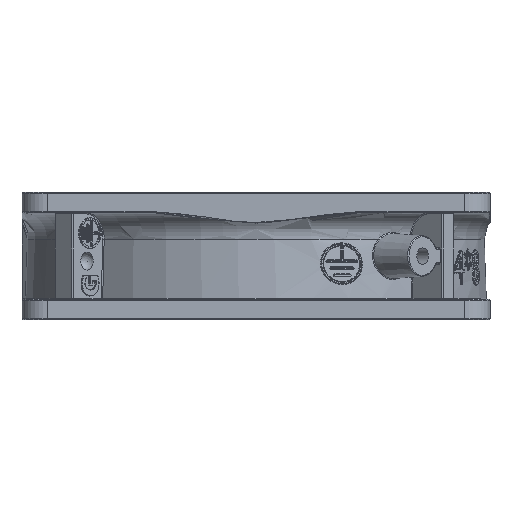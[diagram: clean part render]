
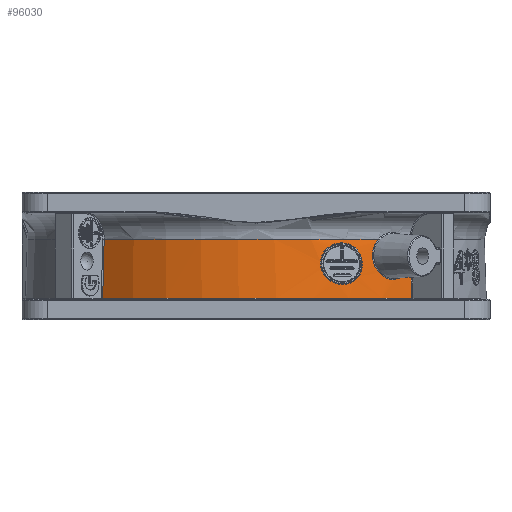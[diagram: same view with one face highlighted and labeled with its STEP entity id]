
A CAD part, left-side view. The second image highlights one B-rep face of the part: STEP entity #96030.
In plain terms, the highlighted conical face has half-angle 2.021 degrees and reference radius 45.1 mm.
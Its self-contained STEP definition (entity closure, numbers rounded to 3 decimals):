
#826=CONICAL_SURFACE('',#102832,45.1,0.035);
#938=FACE_BOUND('',#16226,.T.);
#7078=CIRCLE('',#102833,45.393);
#7079=CIRCLE('',#102834,44.983);
#10127=FACE_OUTER_BOUND('',#16225,.T.);
#16225=EDGE_LOOP('',(#68422,#68423,#68424,#68425,#68426,#68427));
#16226=EDGE_LOOP('',(#68428));
#35676=B_SPLINE_CURVE_WITH_KNOTS('',3,(#142993,#142994,#142995,#142996,
#142997,#142998,#142999,#143000,#143001,#143002,#143003,#143004,#143005,
#143006,#143007),.UNSPECIFIED.,.T.,.F.,(4,1,1,1,1,1,1,1,1,1,1,1,4),(-2.52,
-2.34,-2.16,-1.8,-1.62,
-1.44,-1.32,-1.08,-0.96,
-0.72,-0.36,-0.18,0.),
 .UNSPECIFIED.);
#35678=B_SPLINE_CURVE_WITH_KNOTS('',3,(#143019,#143020,#143021,#143022),
 .UNSPECIFIED.,.F.,.F.,(4,4),(-0.66,-0.039),
 .UNSPECIFIED.);
#35679=B_SPLINE_CURVE_WITH_KNOTS('',3,(#143024,#143025,#143026,#143027),
 .UNSPECIFIED.,.F.,.F.,(4,4),(-0.056,-0.046),
 .UNSPECIFIED.);
#35680=B_SPLINE_CURVE_WITH_KNOTS('',3,(#143029,#143030,#143031,#143032,
#143033,#143034,#143035,#143036,#143037),.UNSPECIFIED.,.F.,.F.,(4,1,1,1,
1,1,4),(-1.619,-1.388,-1.272,-0.925,
-0.463,-0.231,0.),.UNSPECIFIED.);
#35681=B_SPLINE_CURVE_WITH_KNOTS('',3,(#143040,#143041,#143042,#143043),
 .UNSPECIFIED.,.F.,.F.,(4,4),(-1.164,0.),.UNSPECIFIED.);
#41796=VERTEX_POINT('',#142991);
#41797=VERTEX_POINT('',#143015);
#41798=VERTEX_POINT('',#143016);
#41799=VERTEX_POINT('',#143018);
#41800=VERTEX_POINT('',#143023);
#41801=VERTEX_POINT('',#143028);
#41802=VERTEX_POINT('',#143038);
#51877=EDGE_CURVE('',#41796,#41796,#35676,.T.);
#51879=EDGE_CURVE('',#41797,#41798,#7078,.T.);
#51880=EDGE_CURVE('',#41799,#41797,#35678,.T.);
#51881=EDGE_CURVE('',#41800,#41799,#35679,.T.);
#51882=EDGE_CURVE('',#41801,#41800,#35680,.T.);
#51883=EDGE_CURVE('',#41802,#41801,#7079,.T.);
#51884=EDGE_CURVE('',#41798,#41802,#35681,.T.);
#68422=ORIENTED_EDGE('',*,*,#51879,.F.);
#68423=ORIENTED_EDGE('',*,*,#51880,.F.);
#68424=ORIENTED_EDGE('',*,*,#51881,.F.);
#68425=ORIENTED_EDGE('',*,*,#51882,.F.);
#68426=ORIENTED_EDGE('',*,*,#51883,.F.);
#68427=ORIENTED_EDGE('',*,*,#51884,.F.);
#68428=ORIENTED_EDGE('',*,*,#51877,.F.);
#96030=ADVANCED_FACE('',(#10127,#938),#826,.T.);
#102832=AXIS2_PLACEMENT_3D('',#143014,#110627,#110628);
#102833=AXIS2_PLACEMENT_3D('',#143017,#110629,#110630);
#102834=AXIS2_PLACEMENT_3D('',#143039,#110631,#110632);
#110627=DIRECTION('center_axis',(0.,0.,-1.));
#110628=DIRECTION('ref_axis',(-1.,0.,0.));
#110629=DIRECTION('center_axis',(0.,0.,-1.));
#110630=DIRECTION('ref_axis',(-1.,-0.007,0.));
#110631=DIRECTION('center_axis',(0.,0.,1.));
#110632=DIRECTION('ref_axis',(1.,0.,0.));
#142991=CARTESIAN_POINT('',(-43.341,-12.651,11.078));
#142993=CARTESIAN_POINT('Ctrl Pts',(-43.341,-12.651,
11.078));
#142994=CARTESIAN_POINT('Ctrl Pts',(-43.364,-12.656,
10.438));
#142995=CARTESIAN_POINT('Ctrl Pts',(-43.309,-13.006,
9.163));
#142996=CARTESIAN_POINT('Ctrl Pts',(-42.85,-14.722,
7.233));
#142997=CARTESIAN_POINT('Ctrl Pts',(-41.939,-17.242,
6.589));
#142998=CARTESIAN_POINT('Ctrl Pts',(-40.892,-19.455,
7.538));
#142999=CARTESIAN_POINT('Ctrl Pts',(-40.321,-20.498,
8.826));
#143000=CARTESIAN_POINT('Ctrl Pts',(-39.961,-21.047,
10.665));
#143001=CARTESIAN_POINT('Ctrl Pts',(-40.034,-20.778,
12.44));
#143002=CARTESIAN_POINT('Ctrl Pts',(-40.556,-19.609,
14.187));
#143003=CARTESIAN_POINT('Ctrl Pts',(-41.518,-17.46,
15.433));
#143004=CARTESIAN_POINT('Ctrl Pts',(-42.571,-14.711,
14.878));
#143005=CARTESIAN_POINT('Ctrl Pts',(-43.175,-12.982,
12.993));
#143006=CARTESIAN_POINT('Ctrl Pts',(-43.319,-12.647,
11.719));
#143007=CARTESIAN_POINT('Ctrl Pts',(-43.341,-12.651,
11.078));
#143014=CARTESIAN_POINT('Origin',(0.,0.,12.5));
#143015=CARTESIAN_POINT('',(-33.538,-30.589,4.193));
#143016=CARTESIAN_POINT('',(-33.942,30.141,4.193));
#143017=CARTESIAN_POINT('Origin',(0.,0.,4.193));
#143018=CARTESIAN_POINT('',(-33.388,-30.43,10.391));
#143019=CARTESIAN_POINT('Ctrl Pts',(-33.388,-30.43,
10.391));
#143020=CARTESIAN_POINT('Ctrl Pts',(-33.438,-30.483,
8.325));
#143021=CARTESIAN_POINT('Ctrl Pts',(-33.488,-30.536,
6.259));
#143022=CARTESIAN_POINT('Ctrl Pts',(-33.538,-30.589,
4.193));
#143023=CARTESIAN_POINT('',(-33.692,-30.093,10.39));
#143024=CARTESIAN_POINT('Ctrl Pts',(-33.692,-30.093,
10.39));
#143025=CARTESIAN_POINT('Ctrl Pts',(-33.591,-30.206,
10.391));
#143026=CARTESIAN_POINT('Ctrl Pts',(-33.49,-30.318,
10.391));
#143027=CARTESIAN_POINT('Ctrl Pts',(-33.388,-30.43,
10.391));
#143028=CARTESIAN_POINT('',(-38.014,-24.049,15.824));
#143029=CARTESIAN_POINT('Ctrl Pts',(-38.014,-24.049,
15.824));
#143030=CARTESIAN_POINT('Ctrl Pts',(-38.328,-23.589,
15.292));
#143031=CARTESIAN_POINT('Ctrl Pts',(-38.684,-23.069,
14.283));
#143032=CARTESIAN_POINT('Ctrl Pts',(-38.959,-22.749,
11.986));
#143033=CARTESIAN_POINT('Ctrl Pts',(-38.516,-23.769,
8.862));
#143034=CARTESIAN_POINT('Ctrl Pts',(-36.574,-26.788,
7.422));
#143035=CARTESIAN_POINT('Ctrl Pts',(-34.665,-29.087,
8.518));
#143036=CARTESIAN_POINT('Ctrl Pts',(-33.943,-29.848,
9.704));
#143037=CARTESIAN_POINT('Ctrl Pts',(-33.692,-30.093,
10.39));
#143038=CARTESIAN_POINT('',(-33.651,29.85,15.824));
#143039=CARTESIAN_POINT('Origin',(0.,0.,15.824));
#143040=CARTESIAN_POINT('Ctrl Pts',(-33.942,30.141,
4.193));
#143041=CARTESIAN_POINT('Ctrl Pts',(-33.845,30.044,
8.07));
#143042=CARTESIAN_POINT('Ctrl Pts',(-33.748,29.947,
11.947));
#143043=CARTESIAN_POINT('Ctrl Pts',(-33.651,29.85,15.824));
